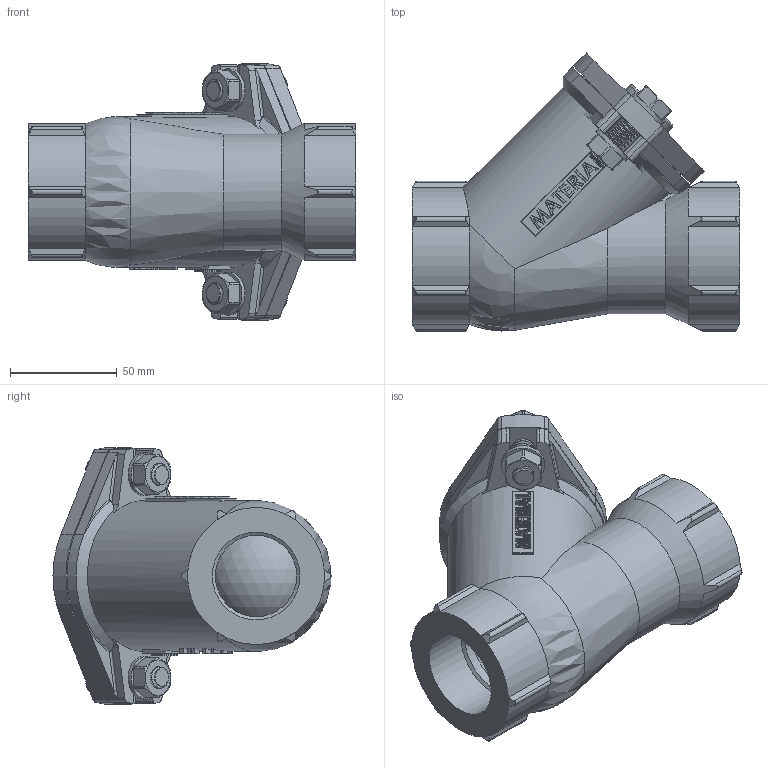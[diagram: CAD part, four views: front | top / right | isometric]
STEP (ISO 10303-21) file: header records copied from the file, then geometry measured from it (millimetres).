
FILE_DESCRIPTION(/* description */ ('Eriks item no: 11812988'),/* implementation_level */ '2;1');
FILE_NAME(/* name */ 'L:\DATA\ENG\Inventor\Econ 3D modellen\terugslagklep\2631\2631-DN40-PN16-NBR-SB.stp',/* time_stamp */ '2022-03-21T10:26:48+01:00',/* author */ ('roger.thijssen'),/* organization */ (''),/* preprocessor_version */ 'ST-DEVELOPER v18',/* originating_system */ 'Autodesk Inventor 2020',/* authorisation */ '');
FILE_SCHEMA (('AUTOMOTIVE_DESIGN { 1 0 10303 214 3 1 1 }'));
Length unit declared in the file: millimetre
Products named in the file (1): Ball check valve, 2631 - 1.1/2" BSPP - PN16 - NBR - SB
Bounding box: 153 x 129.91 x 119.82 mm (x, y, z)
Volume: 449429.7 mm3; surface area: 118759.4 mm2
Topology: 8 solids, 8 shells, 691 faces, 1803 edges, 1149 vertices
Faces by surface type: cylinder 313, plane 300, torus 31, bspline 27, cone 16, sphere 4
Full cylindrical faces by diameter (mm): 7.835 x32, 10 x34, 10.2 x2, 10.5 x2, 11 x2, 20 x4, 22 x1, 28 x1, 38 x1, 41 x2, 56 x1, 57 x1, 57.5 x1
Entity records: 30848 total; most frequent: CARTESIAN_POINT 14255, ORIENTED_EDGE 3582, DIRECTION 3336, EDGE_CURVE 1791, AXIS2_PLACEMENT_3D 1209, VERTEX_POINT 1149, LINE 918, VECTOR 918
